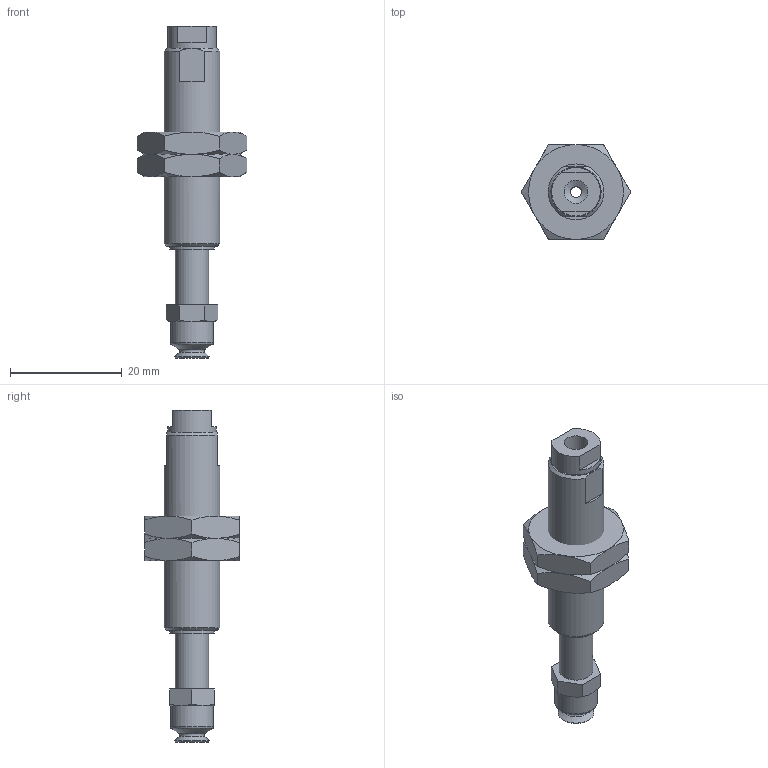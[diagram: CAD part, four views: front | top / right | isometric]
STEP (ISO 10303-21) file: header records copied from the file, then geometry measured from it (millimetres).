
FILE_DESCRIPTION(('STEP AP203'),'1');
FILE_NAME('-LB.stp','2025-04-10T08:02:05',(' '),(' '),'Spatial InterOp 3D',' ',' ');
FILE_SCHEMA(('CONFIG_CONTROL_DESIGN'));
Length unit declared in the file: millimetre
Products named in the file (8): BNABPFTH-6A-10-※-LB; __; BODY; NUT; TN-PS-10-M5; Setting screws-TN-PS-10-M5; BPFG-6A-※
Assembly tree (7 placements, depth 3):
  BNABPFTH-6A-10-※-LB
    __
    BODY
    NUT
    NUT
    TN-PS-10-M5
      Setting screws-TN-PS-10-M5
    BPFG-6A-※
Bounding box: 19.63 x 17 x 59.5 mm (x, y, z)
Volume: 4909.8 mm3; surface area: 4166 mm2
Topology: 6 solids, 6 shells, 125 faces, 265 edges, 159 vertices
Faces by surface type: plane 57, cone 41, cylinder 18, torus 8, bspline 1
Full cylindrical faces by diameter (mm): 2 x3, 3.9 x1, 4 x2, 4.2 x2, 5 x1, 6 x3, 7.7 x1, 8 x1, 8.7 x1, 9 x2, 10 x1
Entity records: 3617 total; most frequent: CARTESIAN_POINT 765, DIRECTION 518, ORIENTED_EDGE 442, AXIS2_PLACEMENT_3D 228, EDGE_CURVE 221, EDGE_LOOP 180, FACE_OUTER_BOUND 152, VERTEX_POINT 151
